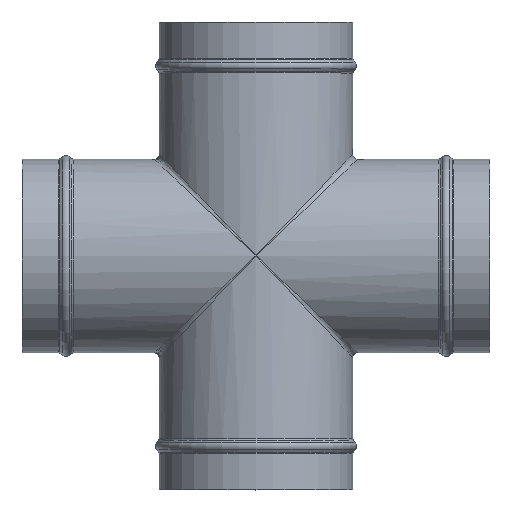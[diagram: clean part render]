
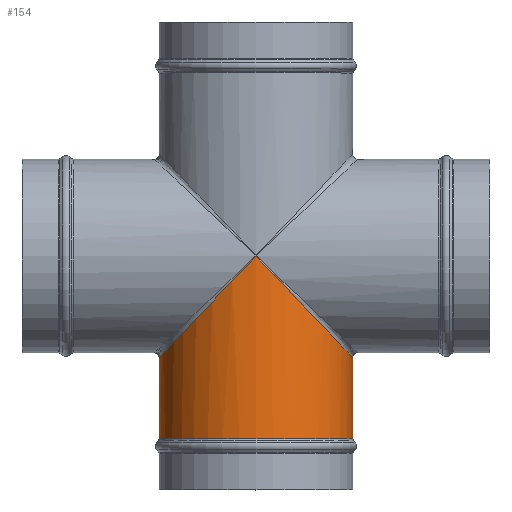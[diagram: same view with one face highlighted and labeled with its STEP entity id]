
A CAD part, top view. The second image highlights one B-rep face of the part: STEP entity #154.
In plain terms, the highlighted cylindrical face has radius 76.5 mm (diameter 153 mm), a full revolution.
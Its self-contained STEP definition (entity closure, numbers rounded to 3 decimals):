
#154=ADVANCED_FACE('',(#253,#254),#213,.T.);
#213=CYLINDRICAL_SURFACE('',#823,76.5);
#229=ELLIPSE('',#820,111.052,76.5);
#230=ELLIPSE('',#821,111.052,76.5);
#253=FACE_BOUND('',#373,.T.);
#254=FACE_BOUND('',#374,.T.);
#373=EDGE_LOOP('',(#498,#499));
#374=EDGE_LOOP('',(#500));
#498=ORIENTED_EDGE('',*,*,#688,.T.);
#499=ORIENTED_EDGE('',*,*,#689,.T.);
#500=ORIENTED_EDGE('',*,*,#690,.T.);
#628=VERTEX_POINT('',#1217);
#629=VERTEX_POINT('',#1218);
#630=VERTEX_POINT('',#1221);
#688=EDGE_CURVE('',#628,#629,#229,.T.);
#689=EDGE_CURVE('',#629,#628,#230,.T.);
#690=EDGE_CURVE('',#630,#630,#754,.T.);
#754=CIRCLE('',#822,76.5);
#820=AXIS2_PLACEMENT_3D('',#1216,#966,#967);
#821=AXIS2_PLACEMENT_3D('',#1219,#968,#969);
#822=AXIS2_PLACEMENT_3D('',#1220,#970,#971);
#823=AXIS2_PLACEMENT_3D('',#1222,#972,#973);
#966=DIRECTION('',(-0.725,-0.689,0.));
#967=DIRECTION('',(-0.689,0.725,0.));
#968=DIRECTION('',(0.725,-0.689,0.));
#969=DIRECTION('',(-0.689,-0.725,0.));
#970=DIRECTION('',(0.,1.,0.));
#971=DIRECTION('',(-1.,0.,0.));
#972=DIRECTION('',(0.,1.,0.));
#973=DIRECTION('',(-1.,0.,0.));
#1216=CARTESIAN_POINT('',(0.,0.,0.));
#1217=CARTESIAN_POINT('',(0.,0.,-76.5));
#1218=CARTESIAN_POINT('',(0.,0.,76.5));
#1219=CARTESIAN_POINT('',(0.,0.,0.));
#1220=CARTESIAN_POINT('',(0.,-144.722,0.));
#1221=CARTESIAN_POINT('',(-76.5,-144.722,0.));
#1222=CARTESIAN_POINT('',(0.,-185.,0.));
